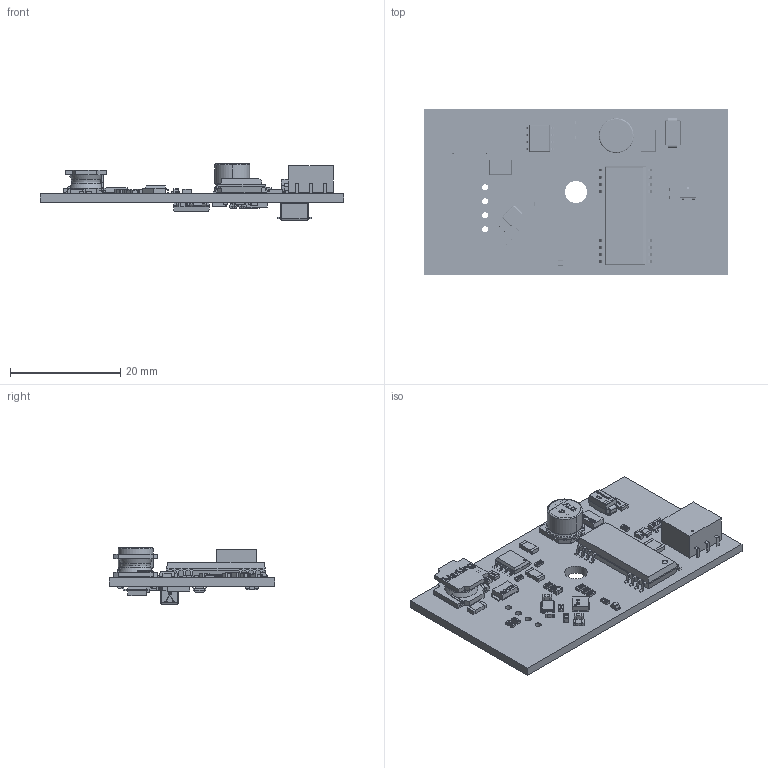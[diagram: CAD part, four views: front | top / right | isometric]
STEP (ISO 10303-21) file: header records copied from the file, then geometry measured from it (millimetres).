
FILE_DESCRIPTION(('Open CASCADE Model'),'2;1');
FILE_NAME('Open CASCADE Shape Model','2019-01-10T10:37:45',('Author'),( 'Open CASCADE'),'Open CASCADE STEP processor 6.5','Open CASCADE 6.5' ,'Unknown');
FILE_SCHEMA(('AUTOMOTIVE_DESIGN { 1 0 10303 214 1 1 1 1 }'));
Length unit declared in the file: millimetre
Products named in the file (95): PCB; Board; DZ1; SOT-23; R18; res_0603; C2; cap_0603; R17; NTC1; C1; capacitor_smd_6.3; User_Library-ALU-D_Fuss_1; User_Library-ALU-D_Pins_1; User_Library-ALU-D_K_X_F6rper_1; User_Library-ALU-D_Beschriftung_1; C3; cap_1206; C4; C5; C6; C7; C8; C9; C10; cap_0805; C11; C12; C13; C14; cap_1210; C15; C16; D1; SOD-128; D2; D3; DL1; led_0603; User_Library-LTST-C190GKT_Pad005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
Assembly tree (128 placements, depth 4):
  PCB
    Board
    DZ1
      SOT-23
    R18
      res_0603
    C2
      cap_0603
    R17
      res_0603
    NTC1
      res_0603
    C1
      capacitor_smd_6.3
        User_Library-ALU-D_Fuss_1
        User_Library-ALU-D_Pins_1
        User_Library-ALU-D_K_X_F6rper_1
        User_Library-ALU-D_Beschriftung_1
    C3
      cap_1206
    C4
      cap_1206
    C5
      cap_1206
    C6
      cap_0603
    C7
      cap_0603
    C8
      cap_0603
    C9
      cap_0603
    C10
      cap_0805
    C11
      cap_0805
    C12
      cap_0805
    C13
      cap_0603
    C14
      cap_1210
    C15
      cap_1210
    C16
      cap_0603
    D1
      SOD-128
    D2
      SOD-128
    D3
      SOT-23
    DL1
      led_0603
        User_Library-LTST-C190GKT_Pad005
        User_Library-LTST-C190GKT_Pad001
        User_Library-LTST-C190GKT_Pad004
        User_Library-LTST-C190GKT_Pad003
        User_Library-LTST-C190GKT_Lens
        User_Library-LTST-C190GKT_Pad
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Bounding box: 55 x 30 x 10.19 mm (x, y, z)
Volume: 3834.5 mm3; surface area: 6302.8 mm2
Topology: 155 solids, 155 shells, 5647 faces, 14629 edges, 9323 vertices
Faces by surface type: plane 2922, bspline 1641, cylinder 760, torus 178, sphere 128, extrusion 18
Full cylindrical faces by diameter (mm): 0.08 x16, 0.7 x1, 1.1 x4, 4 x2
Entity records: 361451 total; most frequent: CARTESIAN_POINT 192479, DIRECTION 21892, ORIENTED_EDGE 17022, PCURVE 17022, DEFINITIONAL_REPRESENTATION 17022, VECTOR 12784, LINE 12766, B_SPLINE_CURVE_WITH_KNOTS 10222
